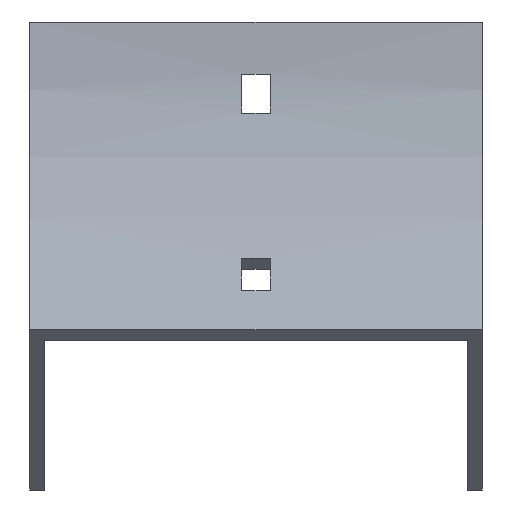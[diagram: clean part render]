
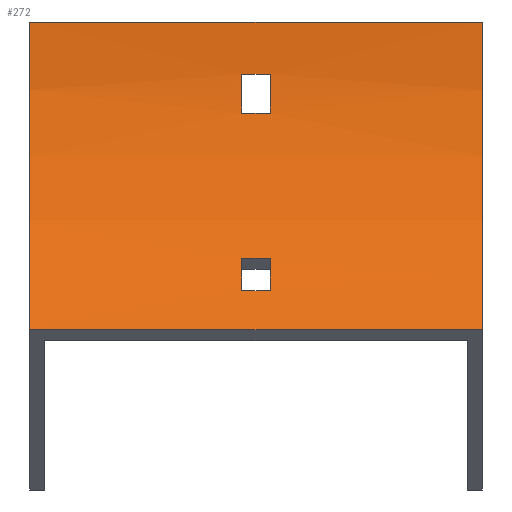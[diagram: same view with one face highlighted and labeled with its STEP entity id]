
A CAD part, front view. The second image highlights one B-rep face of the part: STEP entity #272.
In plain terms, the highlighted cylindrical face has radius 100 mm (diameter 200 mm), a partial arc.
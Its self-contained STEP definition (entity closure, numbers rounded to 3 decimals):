
#4 = CARTESIAN_POINT ( 'NONE',  ( 3.25, -0.723, -12. ) ) ;
#25 = DIRECTION ( 'NONE',  ( -1., 0., 0. ) ) ;
#36 = VERTEX_POINT ( 'NONE', #121 ) ;
#37 = CARTESIAN_POINT ( 'NONE',  ( 52., 0., 0. ) ) ;
#50 = ORIENTED_EDGE ( 'NONE', *, *, #1042, .T. ) ;
#51 = VERTEX_POINT ( 'NONE', #105 ) ;
#65 = DIRECTION ( 'NONE',  ( 0., 0., 1. ) ) ;
#71 = ORIENTED_EDGE ( 'NONE', *, *, #891, .F. ) ;
#78 = VECTOR ( 'NONE', #931, 1000. ) ;
#92 = EDGE_CURVE ( 'NONE', #512, #1023, #1121, .T. ) ;
#98 = EDGE_CURVE ( 'NONE', #51, #814, #674, .T. ) ;
#105 = CARTESIAN_POINT ( 'NONE',  ( -3.25, -0.723, -12. ) ) ;
#121 = CARTESIAN_POINT ( 'NONE',  ( 3.25, -2.23, -21. ) ) ;
#127 = DIRECTION ( 'NONE',  ( 0., 0., 1. ) ) ;
#154 = CARTESIAN_POINT ( 'NONE',  ( 3.25, -100., 0. ) ) ;
#161 = ORIENTED_EDGE ( 'NONE', *, *, #509, .F. ) ;
#186 = LINE ( 'NONE', #274, #666 ) ;
#230 = AXIS2_PLACEMENT_3D ( 'NONE', #660, #604, #310 ) ;
#235 = CARTESIAN_POINT ( 'NONE',  ( 52., 0., 0. ) ) ;
#245 = CIRCLE ( 'NONE', #1044, 100. ) ;
#246 = CYLINDRICAL_SURFACE ( 'NONE', #737, 100. ) ;
#258 = CARTESIAN_POINT ( 'NONE',  ( -3.25, -2.23, -21. ) ) ;
#259 = CIRCLE ( 'NONE', #920, 100. ) ;
#264 = ORIENTED_EDGE ( 'NONE', *, *, #297, .F. ) ;
#272 = ADVANCED_FACE ( 'NONE', ( #961, #701, #801 ), #246, .F. ) ;
#273 = DIRECTION ( 'NONE',  ( 0., 0., 1. ) ) ;
#274 = CARTESIAN_POINT ( 'NONE',  ( 52., -29.289, -70.711 ) ) ;
#276 = CARTESIAN_POINT ( 'NONE',  ( 52., -2.23, -21. ) ) ;
#280 = VECTOR ( 'NONE', #374, 1000. ) ;
#281 = ORIENTED_EDGE ( 'NONE', *, *, #677, .F. ) ;
#289 = DIRECTION ( 'NONE',  ( -1., 0., 0. ) ) ;
#291 = EDGE_LOOP ( 'NONE', ( #904, #50, #1115, #472 ) ) ;
#297 = EDGE_CURVE ( 'NONE', #638, #325, #594, .T. ) ;
#305 = LINE ( 'NONE', #835, #862 ) ;
#310 = DIRECTION ( 'NONE',  ( 0., 0., -1. ) ) ;
#325 = VERTEX_POINT ( 'NONE', #1113 ) ;
#348 = VERTEX_POINT ( 'NONE', #235 ) ;
#354 = VERTEX_POINT ( 'NONE', #942 ) ;
#356 = CARTESIAN_POINT ( 'NONE',  ( 52., -100., 0. ) ) ;
#374 = DIRECTION ( 'NONE',  ( -1., 0., 0. ) ) ;
#399 = CARTESIAN_POINT ( 'NONE',  ( -52., -100., 0. ) ) ;
#416 = ORIENTED_EDGE ( 'NONE', *, *, #1136, .T. ) ;
#422 = VERTEX_POINT ( 'NONE', #435 ) ;
#424 = CARTESIAN_POINT ( 'NONE',  ( 52., -0.723, -12. ) ) ;
#435 = CARTESIAN_POINT ( 'NONE',  ( 52., -29.289, -70.711 ) ) ;
#440 = EDGE_LOOP ( 'NONE', ( #502, #71, #822, #416 ) ) ;
#444 = DIRECTION ( 'NONE',  ( -1., 0., 0. ) ) ;
#470 = DIRECTION ( 'NONE',  ( 1., 0., 0. ) ) ;
#471 = DIRECTION ( 'NONE',  ( 1., 0., 0. ) ) ;
#472 = ORIENTED_EDGE ( 'NONE', *, *, #1031, .T. ) ;
#480 = CARTESIAN_POINT ( 'NONE',  ( -52., 0., 0. ) ) ;
#502 = ORIENTED_EDGE ( 'NONE', *, *, #1126, .T. ) ;
#505 = DIRECTION ( 'NONE',  ( 0., 0., 1. ) ) ;
#509 = EDGE_CURVE ( 'NONE', #1023, #638, #916, .T. ) ;
#512 = VERTEX_POINT ( 'NONE', #996 ) ;
#520 = DIRECTION ( 'NONE',  ( -1., 0., 0. ) ) ;
#529 = DIRECTION ( 'NONE',  ( 0., 0., 1. ) ) ;
#550 = VERTEX_POINT ( 'NONE', #480 ) ;
#594 = CIRCLE ( 'NONE', #1029, 100. ) ;
#604 = DIRECTION ( 'NONE',  ( -1., 0., 0. ) ) ;
#638 = VERTEX_POINT ( 'NONE', #670 ) ;
#653 = DIRECTION ( 'NONE',  ( -1., 0., 0. ) ) ;
#657 = EDGE_CURVE ( 'NONE', #348, #422, #259, .T. ) ;
#660 = CARTESIAN_POINT ( 'NONE',  ( 3.25, -100., 0. ) ) ;
#666 = VECTOR ( 'NONE', #25, 1000. ) ;
#670 = CARTESIAN_POINT ( 'NONE',  ( 3.25, -21.315, -61.714 ) ) ;
#674 = LINE ( 'NONE', #424, #735 ) ;
#676 = CARTESIAN_POINT ( 'NONE',  ( 52., -100., 0. ) ) ;
#677 = EDGE_CURVE ( 'NONE', #325, #512, #305, .T. ) ;
#701 = FACE_BOUND ( 'NONE', #291, .T. ) ;
#703 = ORIENTED_EDGE ( 'NONE', *, *, #92, .F. ) ;
#721 = CIRCLE ( 'NONE', #886, 100. ) ;
#726 = CARTESIAN_POINT ( 'NONE',  ( -3.25, -100., 0. ) ) ;
#735 = VECTOR ( 'NONE', #945, 1000. ) ;
#737 = AXIS2_PLACEMENT_3D ( 'NONE', #356, #444, #529 ) ;
#749 = CIRCLE ( 'NONE', #230, 100. ) ;
#801 = FACE_BOUND ( 'NONE', #930, .T. ) ;
#814 = VERTEX_POINT ( 'NONE', #4 ) ;
#822 = ORIENTED_EDGE ( 'NONE', *, *, #657, .F. ) ;
#832 = LINE ( 'NONE', #37, #78 ) ;
#835 = CARTESIAN_POINT ( 'NONE',  ( 52., -16.017, -54.285 ) ) ;
#840 = DIRECTION ( 'NONE',  ( -1., 0., 0. ) ) ;
#862 = VECTOR ( 'NONE', #653, 1000. ) ;
#871 = DIRECTION ( 'NONE',  ( 1., 0., 0. ) ) ;
#884 = VECTOR ( 'NONE', #471, 1000. ) ;
#886 = AXIS2_PLACEMENT_3D ( 'NONE', #399, #289, #127 ) ;
#891 = EDGE_CURVE ( 'NONE', #422, #354, #186, .T. ) ;
#904 = ORIENTED_EDGE ( 'NONE', *, *, #1096, .T. ) ;
#916 = LINE ( 'NONE', #1080, #884 ) ;
#920 = AXIS2_PLACEMENT_3D ( 'NONE', #676, #840, #505 ) ;
#930 = EDGE_LOOP ( 'NONE', ( #703, #281, #264, #161 ) ) ;
#931 = DIRECTION ( 'NONE',  ( -1., 0., 0. ) ) ;
#942 = CARTESIAN_POINT ( 'NONE',  ( -52., -29.289, -70.711 ) ) ;
#945 = DIRECTION ( 'NONE',  ( 1., 0., 0. ) ) ;
#961 = FACE_OUTER_BOUND ( 'NONE', #440, .T. ) ;
#981 = LINE ( 'NONE', #276, #280 ) ;
#996 = CARTESIAN_POINT ( 'NONE',  ( -3.25, -16.017, -54.285 ) ) ;
#1023 = VERTEX_POINT ( 'NONE', #1084 ) ;
#1029 = AXIS2_PLACEMENT_3D ( 'NONE', #154, #871, #65 ) ;
#1031 = EDGE_CURVE ( 'NONE', #814, #36, #749, .T. ) ;
#1042 = EDGE_CURVE ( 'NONE', #1107, #51, #245, .T. ) ;
#1044 = AXIS2_PLACEMENT_3D ( 'NONE', #726, #470, #273 ) ;
#1077 = AXIS2_PLACEMENT_3D ( 'NONE', #1117, #520, #1101 ) ;
#1080 = CARTESIAN_POINT ( 'NONE',  ( 52., -21.315, -61.714 ) ) ;
#1084 = CARTESIAN_POINT ( 'NONE',  ( -3.25, -21.315, -61.714 ) ) ;
#1096 = EDGE_CURVE ( 'NONE', #36, #1107, #981, .T. ) ;
#1101 = DIRECTION ( 'NONE',  ( 0., 0., -1. ) ) ;
#1107 = VERTEX_POINT ( 'NONE', #258 ) ;
#1113 = CARTESIAN_POINT ( 'NONE',  ( 3.25, -16.017, -54.285 ) ) ;
#1115 = ORIENTED_EDGE ( 'NONE', *, *, #98, .T. ) ;
#1117 = CARTESIAN_POINT ( 'NONE',  ( -3.25, -100., 0. ) ) ;
#1121 = CIRCLE ( 'NONE', #1077, 100. ) ;
#1126 = EDGE_CURVE ( 'NONE', #550, #354, #721, .T. ) ;
#1136 = EDGE_CURVE ( 'NONE', #348, #550, #832, .T. ) ;
